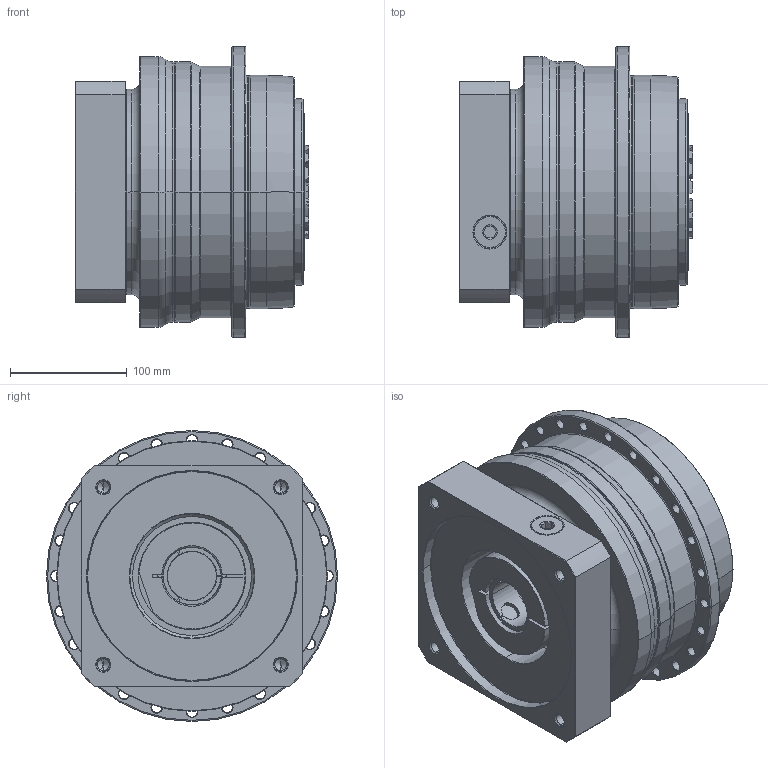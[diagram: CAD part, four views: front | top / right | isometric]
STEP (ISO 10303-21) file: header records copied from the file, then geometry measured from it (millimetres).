
FILE_DESCRIPTION((''),'2;1');
FILE_NAME('APC200_1ST_42-P0409A00201_ASM','2018-06-12T',('d01226'),(''),'PRO/ENGINEER BY PARAMETRIC TECHNOLOGY CORPORATION, 2008410','PRO/ENGINEER BY PARAMETRIC TECHNOLOGY CORPORATION, 2008410','');
FILE_SCHEMA(('CONFIG_CONTROL_DESIGN'));
Length unit declared in the file: millimetre
Products named in the file (9): P0278601003; P0359660103; P1318610301; P0503A00012; P0912603001; P1211600001; P0409A00201; 21711422019; APC200_1ST_42-P0409A00201_ASM
Assembly tree (8 placements, depth 2):
  APC200_1ST_42-P0409A00201_ASM
    P0278601003
    P0359660103
    P1318610301
    P0503A00012
    P0912603001
    P1211600001
    P0409A00201
    21711422019
Bounding box: 200.6 x 249.5 x 249.5 mm (x, y, z)
Volume: 6944068 mm3; surface area: 623508.2 mm2
Topology: 9 solids, 20 shells, 676 faces, 1615 edges, 981 vertices
Faces by surface type: cone 226, cylinder 212, plane 122, torus 102, bspline 14
Entity records: 24733 total; most frequent: CARTESIAN_POINT 8606, DIRECTION 3621, ORIENTED_EDGE 3152, EDGE_CURVE 1597, AXIS2_PLACEMENT_3D 1570, VERTEX_POINT 981, CIRCLE 881, EDGE_LOOP 780
